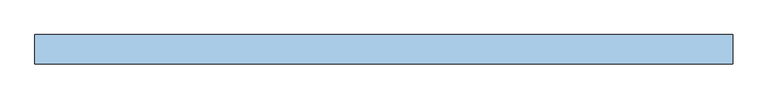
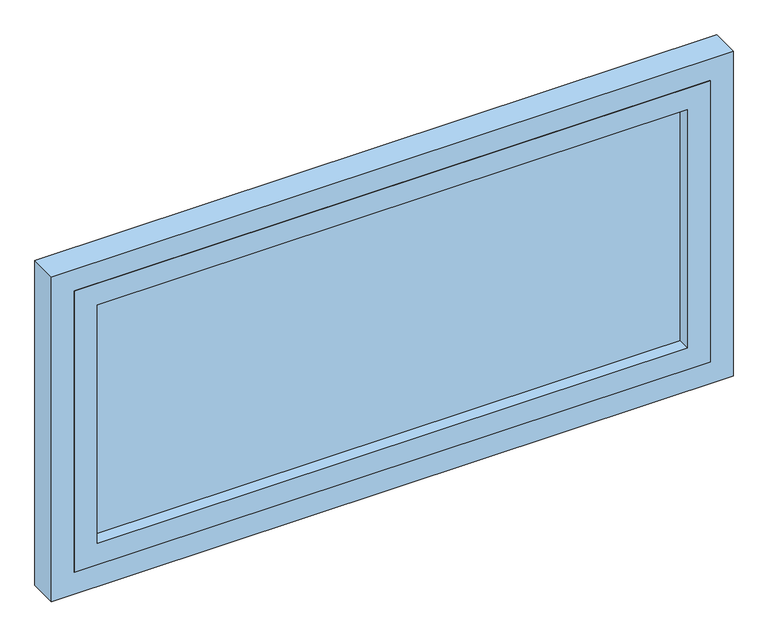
"""IFC4 building model written with IfcOpenShell, lengths in millimetres: window geometry, VENT_ALUM_PROY : VD-19 / PROY BAÑO 1.24 X 0.6."""

import ifcopenshell
import ifcopenshell.guid

model = None  # the IFC model being written
_history = None  # IfcOwnerHistory: only IFC2X3 demands one
_inside = {}  # id of a spatial element -> (the spatial element, [elements in it])
_under = {}  # id of a project, library or spatial element -> (it, [spatial elements below it])
_declared = {}  # id of a project -> (the project, [libraries it declares])
_typed = {}  # id of a type object -> (the type object, [elements of that type])
_made_of = {}  # id of a material, layer set ... -> (it, [elements and type objects made of it])


def new_model(schema):
    """Start an empty IFC model of exactly this schema.

    Asked for "IFC4X3", IfcOpenShell would pick the latest addendum, in which some entities
    have other attributes; the version numbers below select the first issue.
    IFC2X3 requires an IfcOwnerHistory on every rooted entity: one is made here for all.
    """
    global model, _history
    if schema == "IFC4X3":
        model = ifcopenshell.file(schema_version=(4, 3, 0, 0))
    else:
        model = ifcopenshell.file(schema=schema)
    _inside.clear()
    _under.clear()
    _declared.clear()
    _typed.clear()
    _made_of.clear()
    _history = None
    if model.schema == "IFC2X3":
        org = make("IfcOrganization", Name="unknown")
        user = make(
            "IfcPersonAndOrganization",
            ThePerson=make("IfcPerson", FamilyName="unknown"),
            TheOrganization=org,
        )
        app = make(
            "IfcApplication",
            ApplicationDeveloper=org,
            Version="unknown",
            ApplicationFullName="unknown",
            ApplicationIdentifier="unknown",
        )
        _history = make(
            "IfcOwnerHistory",
            OwningUser=user,
            OwningApplication=app,
            ChangeAction="ADDED",
            CreationDate=0,
        )
    return model


def make(cls, **values):
    """One entity of the class cls with the attributes given. An attribute that is None is left unset."""
    return model.create_entity(
        cls, **{name: value for name, value in values.items() if value is not None}
    )


def rooted(cls, **values):
    """An entity with a GlobalId (a new one), such as an element, a storey or a relation."""
    return make(cls, GlobalId=ifcopenshell.guid.new(), OwnerHistory=_history, **values)


def si_unit(unit_type, name, prefix=None):
    """IfcSIUnit, for example si_unit("LENGTHUNIT", "METRE", prefix="MILLI")."""
    return make("IfcSIUnit", UnitType=unit_type, Prefix=prefix, Name=name)


def assignment(units):
    """IfcUnitAssignment: the units of a project."""
    return None if units is None else make("IfcUnitAssignment", Units=units)


def point(xyz):
    """IfcCartesianPoint."""
    return None if xyz is None else make("IfcCartesianPoint", Coordinates=xyz)


def direction(xyz):
    """IfcDirection."""
    return None if xyz is None else make("IfcDirection", DirectionRatios=xyz)


def frame(location, z_axis=None, x_axis=None):
    """IfcAxis2Placement3D, a coordinate frame: its origin and axes. An axis left out is left unset."""
    return make(
        "IfcAxis2Placement3D",
        Location=point(location),
        Axis=direction(z_axis),
        RefDirection=direction(x_axis),
    )


def origin():
    """The frame at (0, 0, 0) with its axes left unset."""
    return frame((0.0, 0.0, 0.0))


def place(relative_to, where):
    """IfcLocalPlacement: puts the frame where relative to a parent placement (None: the world)."""
    return make(
        "IfcLocalPlacement", PlacementRelTo=relative_to, RelativePlacement=where
    )


def context(
    kind, dimensions, precision=None, world=None, true_north=None, identifier=None
):
    """IfcGeometricRepresentationContext, for example the 3D "Model" context."""
    return make(
        "IfcGeometricRepresentationContext",
        ContextIdentifier=identifier,
        ContextType=kind,
        CoordinateSpaceDimension=dimensions,
        Precision=precision,
        WorldCoordinateSystem=world,
        TrueNorth=true_north,
    )


def project(units=None, contexts=None):
    """IfcProject with its units and contexts."""
    return rooted(
        "IfcProject",
        Name="project",
        RepresentationContexts=contexts,
        UnitsInContext=assignment(units),
    )


def spatial(cls, under=None, at=None, **own):
    """A site, building, storey or space (cls), placed at a placement, below another one or the project."""
    s = rooted(cls, ObjectPlacement=at, **own)
    if under is not None:
        _under.setdefault(under.id(), (under, []))[1].append(s)
    return s


def polyline(points):
    """IfcPolyline through the points."""
    return make("IfcPolyline", Points=[point(p) for p in points])


def outline(outer, holes=None, kind="AREA"):
    """IfcArbitraryClosedProfileDef: a profile drawn as a closed curve; with holes, ...WithVoids."""
    if holes is None:
        return make("IfcArbitraryClosedProfileDef", ProfileType=kind, OuterCurve=outer)
    return make(
        "IfcArbitraryProfileDefWithVoids",
        ProfileType=kind,
        OuterCurve=outer,
        InnerCurves=holes,
    )


def extrude(swept, where, along, depth):
    """IfcExtrudedAreaSolid: the profile swept, set in the frame where, extruded along a direction by depth."""
    return make(
        "IfcExtrudedAreaSolid",
        SweptArea=swept,
        Position=where,
        ExtrudedDirection=direction(along),
        Depth=depth,
    )


def shape(context_of_items, identifier, shape_type, items):
    """IfcShapeRepresentation: the items that make up one representation, for example the "Body"."""
    return make(
        "IfcShapeRepresentation",
        ContextOfItems=context_of_items,
        RepresentationIdentifier=identifier,
        RepresentationType=shape_type,
        Items=items,
    )


def source(mapping_origin, context_of_items, identifier, shape_type, items):
    """IfcRepresentationMap: a shape defined once, which mapped items show again and again."""
    return make(
        "IfcRepresentationMap",
        MappingOrigin=mapping_origin,
        MappedRepresentation=shape(context_of_items, identifier, shape_type, items),
    )


def transform(
    local_origin,
    x_axis=None,
    y_axis=None,
    z_axis=None,
    scale=None,
    scale2=None,
    scale3=None,
    uniform=True,
):
    """IfcCartesianTransformationOperator3D, or its non-uniform kind. x_axis, y_axis, z_axis: its Axis1, 2, 3."""
    if uniform:
        return make(
            "IfcCartesianTransformationOperator3D",
            Axis1=direction(x_axis),
            Axis2=direction(y_axis),
            LocalOrigin=point(local_origin),
            Scale=scale,
            Axis3=direction(z_axis),
        )
    return make(
        "IfcCartesianTransformationOperator3DnonUniform",
        Axis1=direction(x_axis),
        Axis2=direction(y_axis),
        LocalOrigin=point(local_origin),
        Scale=scale,
        Axis3=direction(z_axis),
        Scale2=scale2,
        Scale3=scale3,
    )


def mapped(mapping_source, mapping_target):
    """IfcMappedItem: shows the shape of a source again, moved by a transform."""
    return make(
        "IfcMappedItem", MappingSource=mapping_source, MappingTarget=mapping_target
    )


def made_of(thing, what):
    """Note that an element or type object is made of a material, layer set ...; save() writes the relation."""
    if what is not None:
        _made_of.setdefault(what.id(), (what, []))[1].append(thing)
    return thing


def element(
    cls,
    number,
    at=None,
    inside=None,
    cuts=None,
    type_object=None,
    material=None,
    context=None,
    identifier="Body",
    shape_type=None,
    held_by="IfcProductDefinitionShape",
    body=None,
    shapes=None,
    **own,
):
    """One element of the class cls, such as IfcWall. Its Tag is "e" and its number.

    at: its placement. inside: the storey or other place that contains it. cuts: it is an
    opening in that element (IfcRelVoidsElement). A single representation is given by context,
    identifier, shape_type and body (its items); several are given by shapes. held_by: the class
    of the entity that holds the representations. save() writes the other relations.
    """
    e = rooted(cls, Tag="e%d" % number, ObjectPlacement=at, **own)
    if body is not None:
        shapes = [shape(context, identifier, shape_type, body)]
    if shapes is not None:
        e.Representation = make(held_by, Representations=shapes)
    if inside is not None:
        _inside.setdefault(inside.id(), (inside, []))[1].append(e)
    if cuts is not None:
        rooted(
            "IfcRelVoidsElement", RelatingBuildingElement=cuts, RelatedOpeningElement=e
        )
    if type_object is not None:
        _typed.setdefault(type_object.id(), (type_object, []))[1].append(e)
    return made_of(e, material)


def aggregate(whole, parts):
    """IfcRelAggregates: a whole, such as a stair, and the parts it consists of."""
    return rooted("IfcRelAggregates", RelatingObject=whole, RelatedObjects=parts)


def save(model, path):
    """Write the relations noted so far, then the file.

    IfcRelAggregates (storeys below a building ...), IfcRelContainedInSpatialStructure (elements
    in a storey), IfcRelDefinesByType, IfcRelAssociatesMaterial and IfcRelDeclares: one each for
    every whole, place, type object, material and project.
    """
    for whole, parts in _under.values():
        aggregate(whole, parts)
    for where, things in _inside.values():
        rooted(
            "IfcRelContainedInSpatialStructure",
            RelatedElements=things,
            RelatingStructure=where,
        )
    for kind, things in _typed.values():
        rooted("IfcRelDefinesByType", RelatedObjects=things, RelatingType=kind)
    for what, things in _made_of.values():
        rooted("IfcRelAssociatesMaterial", RelatedObjects=things, RelatingMaterial=what)
    for by, libraries in _declared.values():
        rooted("IfcRelDeclares", RelatingContext=by, RelatedDefinitions=libraries)
    model.write(path)


def window_59fecd62(model_context):
    return source(origin(), model_context, "Body", "SweptSolid", [
        extrude(outline(polyline([(840.0, -555.0), (840.0, 555.0), (1360.0, 555.0), (1360.0, -555.0), (840.0, -555.0)]), holes=[polyline([(1320.0, -515.0), (1320.0, 515.0), (880.0, 515.0), (880.0, -515.0), (1320.0, -515.0)])]), frame((0.0, -25.0, 0.0), z_axis=(0.0, 1.0, 0.0), x_axis=(0.0, 0.0, 1.0)), (0.0, 0.0, 1.0), 50.0),
        extrude(outline(polyline([(515.0, -3.0), (-515.0, -3.0), (-515.0, 3.0), (515.0, 3.0), (515.0, -3.0)])), frame((0.0, 0.0, 880.0), z_axis=(0.0, 0.0, 1.0), x_axis=(1.0, 0.0, 0.0)), (0.0, 0.0, 1.0), 440.0),
        extrude(outline(polyline([(800.0, -595.0), (800.0, 595.0), (1400.0, 595.0), (1400.0, -595.0), (800.0, -595.0)]), holes=[polyline([(1360.0, -555.0), (1360.0, 555.0), (840.0, 555.0), (840.0, -555.0), (1360.0, -555.0)])]), frame((0.0, -25.0, 0.0), z_axis=(0.0, 1.0, 0.0), x_axis=(0.0, 0.0, 1.0)), (0.0, 0.0, 1.0), 50.0),
    ])


if __name__ == "__main__":
    model = new_model("IFC4")
    model_context = context("Model", 3, world=origin())
    ifc_project = project(units=[si_unit("LENGTHUNIT", "METRE", prefix="MILLI")], contexts=[model_context])
    site = spatial("IfcSite", under=ifc_project)
    building = spatial("IfcBuilding", under=site)
    placement = place(None, origin())
    window_shape = window_59fecd62(model_context)
    element("IfcWindow", 1, ObjectType="VENT_ALUM_PROY : VD-19 / PROY BAÑO 1.24 X 0.6", at=placement, inside=building, context=model_context, shape_type="MappedRepresentation", body=[
        mapped(window_shape, transform((0.0, 0.0, 0.0), x_axis=(1.0, 0.0, 0.0), y_axis=(0.0, 1.0, 0.0), z_axis=(0.0, 0.0, 1.0))),
    ])
    save(model, "model.ifc")
